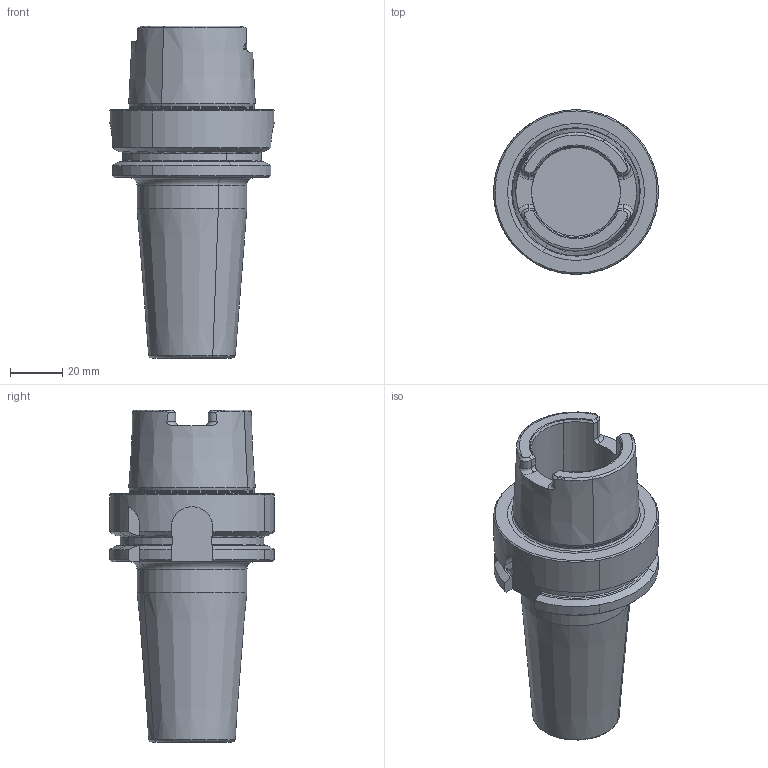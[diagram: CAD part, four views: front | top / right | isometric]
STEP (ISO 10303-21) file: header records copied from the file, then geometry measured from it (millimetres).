
FILE_DESCRIPTION(('CATIA V5 STEP','CAx-IF Rec.Pracs.--- Model Styling and Organization---1.2---2011-12-15'),'2;1');
FILE_NAME('\\nas01\drv1\utils\eitdev\rte\eit\transmagicconvert\db\out\4503905 L.stp','2014-03-31T11:18:29+00:00',('none'),('none'),'CATIA Version 5 Release 21 SP 5 (IN-10)','CATIA V5 STEP AP214','none');
FILE_SCHEMA(('AUTOMOTIVE_DESIGN { 1 0 10303 214 1 1 1 1 }'));
Length unit declared in the file: millimetre
Products named in the file (1): 60917413_0 Assembly HSK A 63 SRKIN 18X 95 
Bounding box: 62.99 x 63 x 127 mm (x, y, z)
Volume: 169741.9 mm3; surface area: 28670.7 mm2
Topology: 1 solids, 1 shells, 134 faces, 345 edges, 216 vertices
Faces by surface type: plane 41, cone 33, cylinder 32, torus 28
Entity records: 4183 total; most frequent: CARTESIAN_POINT 1299, ORIENTED_EDGE 690, DIRECTION 426, EDGE_CURVE 345, AXIS2_PLACEMENT_3D 229, VERTEX_POINT 216, CIRCLE 149, EDGE_LOOP 137
